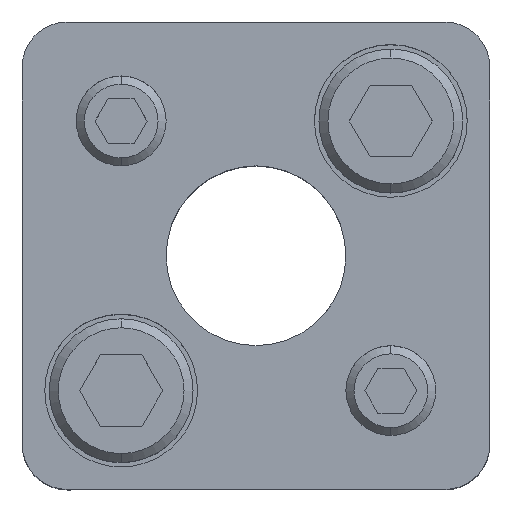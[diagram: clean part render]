
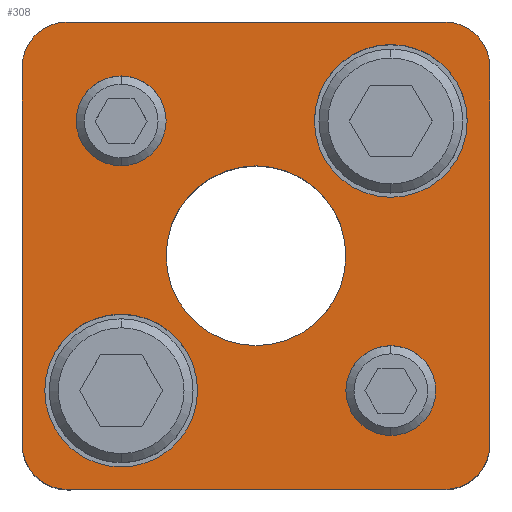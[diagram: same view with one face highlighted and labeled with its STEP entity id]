
A CAD part, top view. The second image highlights one B-rep face of the part: STEP entity #308.
In plain terms, the highlighted planar face has unit normal (0, 0, 1).
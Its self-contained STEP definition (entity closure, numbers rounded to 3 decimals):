
#165=PLANE('',#2567);
#228=FACE_BOUND('',#643,.T.);
#229=FACE_BOUND('',#644,.T.);
#230=FACE_BOUND('',#645,.T.);
#231=FACE_BOUND('',#646,.T.);
#232=FACE_BOUND('',#647,.T.);
#233=FACE_BOUND('',#648,.T.);
#308=ADVANCED_FACE('',(#228,#229,#230,#231,#232,#233),#165,.T.);
#643=EDGE_LOOP('',(#1335,#1336,#1337,#1338,#1339,#1340,#1341,#1342));
#644=EDGE_LOOP('',(#1343,#1344));
#645=EDGE_LOOP('',(#1345,#1346));
#646=EDGE_LOOP('',(#1347,#1348));
#647=EDGE_LOOP('',(#1349,#1350));
#648=EDGE_LOOP('',(#1351,#1352));
#806=LINE('',#3770,#988);
#807=LINE('',#3774,#989);
#808=LINE('',#3778,#990);
#809=LINE('',#3782,#991);
#988=VECTOR('',#3009,1.);
#989=VECTOR('',#3012,1.);
#990=VECTOR('',#3015,1.);
#991=VECTOR('',#3018,1.);
#1335=ORIENTED_EDGE('',*,*,#2102,.T.);
#1336=ORIENTED_EDGE('',*,*,#2103,.T.);
#1337=ORIENTED_EDGE('',*,*,#2104,.T.);
#1338=ORIENTED_EDGE('',*,*,#2105,.T.);
#1339=ORIENTED_EDGE('',*,*,#2106,.T.);
#1340=ORIENTED_EDGE('',*,*,#2107,.T.);
#1341=ORIENTED_EDGE('',*,*,#2108,.T.);
#1342=ORIENTED_EDGE('',*,*,#2109,.T.);
#1343=ORIENTED_EDGE('',*,*,#2110,.F.);
#1344=ORIENTED_EDGE('',*,*,#2111,.F.);
#1345=ORIENTED_EDGE('',*,*,#2112,.F.);
#1346=ORIENTED_EDGE('',*,*,#2113,.F.);
#1347=ORIENTED_EDGE('',*,*,#2088,.F.);
#1348=ORIENTED_EDGE('',*,*,#2084,.F.);
#1349=ORIENTED_EDGE('',*,*,#2082,.F.);
#1350=ORIENTED_EDGE('',*,*,#2078,.F.);
#1351=ORIENTED_EDGE('',*,*,#2114,.T.);
#1352=ORIENTED_EDGE('',*,*,#2115,.T.);
#1837=VERTEX_POINT('',#3718);
#1838=VERTEX_POINT('',#3719);
#1841=VERTEX_POINT('',#3731);
#1842=VERTEX_POINT('',#3732);
#1853=VERTEX_POINT('',#3768);
#1854=VERTEX_POINT('',#3769);
#1855=VERTEX_POINT('',#3771);
#1856=VERTEX_POINT('',#3773);
#1857=VERTEX_POINT('',#3775);
#1858=VERTEX_POINT('',#3777);
#1859=VERTEX_POINT('',#3779);
#1860=VERTEX_POINT('',#3781);
#1861=VERTEX_POINT('',#3784);
#1862=VERTEX_POINT('',#3785);
#1863=VERTEX_POINT('',#3788);
#1864=VERTEX_POINT('',#3789);
#1865=VERTEX_POINT('',#3792);
#1866=VERTEX_POINT('',#3793);
#2078=EDGE_CURVE('',#1837,#1838,#2355,.T.);
#2082=EDGE_CURVE('',#1838,#1837,#2357,.T.);
#2084=EDGE_CURVE('',#1841,#1842,#2359,.T.);
#2088=EDGE_CURVE('',#1842,#1841,#2361,.T.);
#2102=EDGE_CURVE('',#1853,#1854,#2371,.T.);
#2103=EDGE_CURVE('',#1854,#1855,#806,.T.);
#2104=EDGE_CURVE('',#1855,#1856,#2372,.T.);
#2105=EDGE_CURVE('',#1856,#1857,#807,.T.);
#2106=EDGE_CURVE('',#1857,#1858,#2373,.T.);
#2107=EDGE_CURVE('',#1858,#1859,#808,.T.);
#2108=EDGE_CURVE('',#1859,#1860,#2374,.T.);
#2109=EDGE_CURVE('',#1860,#1853,#809,.T.);
#2110=EDGE_CURVE('',#1861,#1862,#2375,.T.);
#2111=EDGE_CURVE('',#1862,#1861,#2376,.T.);
#2112=EDGE_CURVE('',#1863,#1864,#2377,.T.);
#2113=EDGE_CURVE('',#1864,#1863,#2378,.T.);
#2114=EDGE_CURVE('',#1865,#1866,#2379,.T.);
#2115=EDGE_CURVE('',#1866,#1865,#2380,.T.);
#2355=CIRCLE('',#2531,5.);
#2357=CIRCLE('',#2534,5.);
#2359=CIRCLE('',#2538,5.);
#2361=CIRCLE('',#2541,5.);
#2371=CIRCLE('',#2557,5.);
#2372=CIRCLE('',#2558,5.);
#2373=CIRCLE('',#2559,5.);
#2374=CIRCLE('',#2560,5.);
#2375=CIRCLE('',#2561,8.5);
#2376=CIRCLE('',#2562,8.5);
#2377=CIRCLE('',#2563,8.5);
#2378=CIRCLE('',#2564,8.5);
#2379=CIRCLE('',#2565,10.);
#2380=CIRCLE('',#2566,10.);
#2531=AXIS2_PLACEMENT_3D('',#3717,#2947,#2948);
#2534=AXIS2_PLACEMENT_3D('',#3726,#2955,#2956);
#2538=AXIS2_PLACEMENT_3D('',#3730,#2963,#2964);
#2541=AXIS2_PLACEMENT_3D('',#3739,#2971,#2972);
#2557=AXIS2_PLACEMENT_3D('',#3767,#3007,#3008);
#2558=AXIS2_PLACEMENT_3D('',#3772,#3010,#3011);
#2559=AXIS2_PLACEMENT_3D('',#3776,#3013,#3014);
#2560=AXIS2_PLACEMENT_3D('',#3780,#3016,#3017);
#2561=AXIS2_PLACEMENT_3D('',#3783,#3019,#3020);
#2562=AXIS2_PLACEMENT_3D('',#3786,#3021,#3022);
#2563=AXIS2_PLACEMENT_3D('',#3787,#3023,#3024);
#2564=AXIS2_PLACEMENT_3D('',#3790,#3025,#3026);
#2565=AXIS2_PLACEMENT_3D('',#3791,#3027,#3028);
#2566=AXIS2_PLACEMENT_3D('',#3794,#3029,#3030);
#2567=AXIS2_PLACEMENT_3D('',#3795,#3031,#3032);
#2947=DIRECTION('',(0.,0.,1.));
#2948=DIRECTION('',(-1.,0.,0.));
#2955=DIRECTION('',(0.,0.,1.));
#2956=DIRECTION('',(1.,0.,0.));
#2963=DIRECTION('',(0.,0.,1.));
#2964=DIRECTION('',(-1.,0.,0.));
#2971=DIRECTION('',(0.,0.,1.));
#2972=DIRECTION('',(1.,0.,0.));
#3007=DIRECTION('',(0.,0.,1.));
#3008=DIRECTION('',(-0.707,0.707,0.));
#3009=DIRECTION('',(0.,1.,0.));
#3010=DIRECTION('',(0.,0.,1.));
#3011=DIRECTION('',(-0.707,-0.707,0.));
#3012=DIRECTION('',(-1.,0.,0.));
#3013=DIRECTION('',(0.,0.,1.));
#3014=DIRECTION('',(0.707,-0.707,0.));
#3015=DIRECTION('',(0.,-1.,0.));
#3016=DIRECTION('',(0.,0.,1.));
#3017=DIRECTION('',(0.707,0.707,0.));
#3018=DIRECTION('',(1.,0.,0.));
#3019=DIRECTION('',(0.,0.,1.));
#3020=DIRECTION('',(1.,0.,0.));
#3021=DIRECTION('',(0.,0.,1.));
#3022=DIRECTION('',(-1.,0.,0.));
#3023=DIRECTION('',(0.,0.,1.));
#3024=DIRECTION('',(1.,0.,0.));
#3025=DIRECTION('',(0.,0.,1.));
#3026=DIRECTION('',(-1.,0.,0.));
#3027=DIRECTION('',(0.,0.,-1.));
#3028=DIRECTION('',(-1.,0.,0.));
#3029=DIRECTION('',(0.,0.,-1.));
#3030=DIRECTION('',(1.,0.,0.));
#3031=DIRECTION('',(0.,0.,1.));
#3032=DIRECTION('',(-1.,0.,0.));
#3717=CARTESIAN_POINT('',(15.,-15.,35.));
#3718=CARTESIAN_POINT('',(15.,-20.,35.));
#3719=CARTESIAN_POINT('',(15.,-10.,35.));
#3726=CARTESIAN_POINT('',(15.,-15.,35.));
#3730=CARTESIAN_POINT('',(-15.,15.,35.));
#3731=CARTESIAN_POINT('',(-15.,10.,35.));
#3732=CARTESIAN_POINT('',(-15.,20.,35.));
#3739=CARTESIAN_POINT('',(-15.,15.,35.));
#3767=CARTESIAN_POINT('',(21.,-21.,35.));
#3768=CARTESIAN_POINT('',(21.,-26.,35.));
#3769=CARTESIAN_POINT('',(26.,-21.,35.));
#3770=CARTESIAN_POINT('',(26.,21.,35.));
#3771=CARTESIAN_POINT('',(26.,21.,35.));
#3772=CARTESIAN_POINT('',(21.,21.,35.));
#3773=CARTESIAN_POINT('',(21.,26.,35.));
#3774=CARTESIAN_POINT('',(-21.,26.,35.));
#3775=CARTESIAN_POINT('',(-21.,26.,35.));
#3776=CARTESIAN_POINT('',(-21.,21.,35.));
#3777=CARTESIAN_POINT('',(-26.,21.,35.));
#3778=CARTESIAN_POINT('',(-26.,21.,35.));
#3779=CARTESIAN_POINT('',(-26.,-21.,35.));
#3780=CARTESIAN_POINT('',(-21.,-21.,35.));
#3781=CARTESIAN_POINT('',(-21.,-26.,35.));
#3782=CARTESIAN_POINT('',(-21.,-26.,35.));
#3783=CARTESIAN_POINT('',(15.,15.,35.));
#3784=CARTESIAN_POINT('',(15.,23.5,35.));
#3785=CARTESIAN_POINT('',(15.,6.5,35.));
#3786=CARTESIAN_POINT('',(15.,15.,35.));
#3787=CARTESIAN_POINT('',(-15.,-15.,35.));
#3788=CARTESIAN_POINT('',(-15.,-6.5,35.));
#3789=CARTESIAN_POINT('',(-15.,-23.5,35.));
#3790=CARTESIAN_POINT('',(-15.,-15.,35.));
#3791=CARTESIAN_POINT('',(0.,0.,35.));
#3792=CARTESIAN_POINT('',(0.,10.,35.));
#3793=CARTESIAN_POINT('',(0.,-10.,35.));
#3794=CARTESIAN_POINT('',(0.,0.,35.));
#3795=CARTESIAN_POINT('',(21.,-26.,35.));
